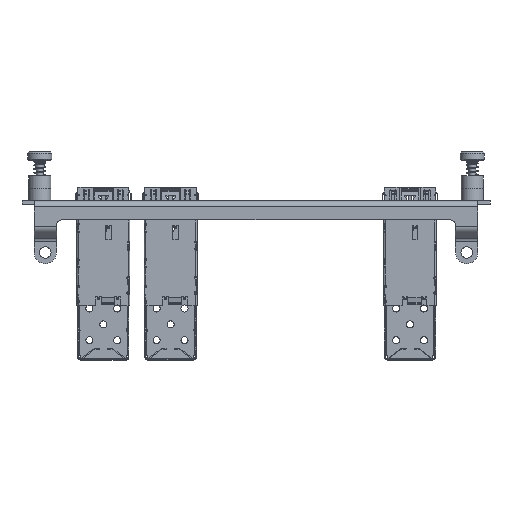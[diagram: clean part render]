
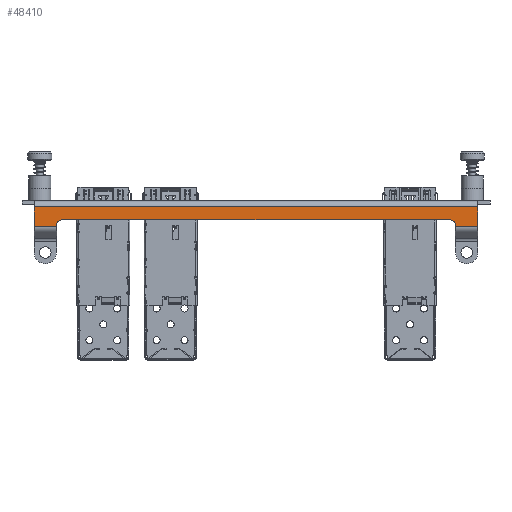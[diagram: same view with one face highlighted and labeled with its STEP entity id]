
A CAD part, front view. The second image highlights one B-rep face of the part: STEP entity #48410.
In plain terms, the highlighted planar face has unit normal (0, -1, 0) as drawn and (0, 0, 1) by its records, which use the part's own axes.
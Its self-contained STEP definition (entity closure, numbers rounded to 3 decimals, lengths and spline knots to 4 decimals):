
#4821=PLANE('',#50525);
#5986=FACE_OUTER_BOUND('',#7871,.T.);
#7871=EDGE_LOOP('',(#38432,#38433,#38434,#38435,#38436,#38437,#38438,#38439,
#38440,#38441));
#9796=LINE('',#66968,#15251);
#9800=LINE('',#66980,#15255);
#9818=LINE('',#67027,#15273);
#9860=LINE('',#67139,#15315);
#9888=LINE('',#67213,#15343);
#9937=LINE('',#67341,#15392);
#9938=LINE('',#67342,#15393);
#9939=LINE('',#67343,#15394);
#15251=VECTOR('',#54126,0.3937);
#15255=VECTOR('',#54138,0.3937);
#15273=VECTOR('',#54172,0.3937);
#15315=VECTOR('',#54252,0.3937);
#15343=VECTOR('',#54330,0.3937);
#15392=VECTOR('',#54477,0.3937);
#15393=VECTOR('',#54478,0.3937);
#15394=VECTOR('',#54479,0.3937);
#20704=CIRCLE('',#50418,0.06);
#20706=CIRCLE('',#50422,0.06);
#22592=VERTEX_POINT('',#66958);
#22593=VERTEX_POINT('',#66959);
#22596=VERTEX_POINT('',#66967);
#22598=VERTEX_POINT('',#66973);
#22600=VERTEX_POINT('',#66979);
#22620=VERTEX_POINT('',#67025);
#22621=VERTEX_POINT('',#67026);
#22671=VERTEX_POINT('',#67136);
#22672=VERTEX_POINT('',#67138);
#22693=VERTEX_POINT('',#67211);
#30045=EDGE_CURVE('',#22592,#22593,#20704,.T.);
#30049=EDGE_CURVE('',#22596,#22593,#9796,.T.);
#30052=EDGE_CURVE('',#22596,#22598,#20706,.T.);
#30055=EDGE_CURVE('',#22600,#22598,#9800,.T.);
#30077=EDGE_CURVE('',#22620,#22621,#9818,.T.);
#30134=EDGE_CURVE('',#22672,#22671,#9860,.T.);
#30173=EDGE_CURVE('',#22592,#22693,#9888,.T.);
#30236=EDGE_CURVE('',#22621,#22672,#9937,.T.);
#30237=EDGE_CURVE('',#22600,#22671,#9938,.T.);
#30238=EDGE_CURVE('',#22620,#22693,#9939,.T.);
#38432=ORIENTED_EDGE('',*,*,#30077,.T.);
#38433=ORIENTED_EDGE('',*,*,#30236,.T.);
#38434=ORIENTED_EDGE('',*,*,#30134,.T.);
#38435=ORIENTED_EDGE('',*,*,#30237,.F.);
#38436=ORIENTED_EDGE('',*,*,#30055,.T.);
#38437=ORIENTED_EDGE('',*,*,#30052,.F.);
#38438=ORIENTED_EDGE('',*,*,#30049,.T.);
#38439=ORIENTED_EDGE('',*,*,#30045,.F.);
#38440=ORIENTED_EDGE('',*,*,#30173,.T.);
#38441=ORIENTED_EDGE('',*,*,#30238,.F.);
#48410=ADVANCED_FACE('',(#5986),#4821,.T.);
#50418=AXIS2_PLACEMENT_3D('',#66960,#54118,#54119);
#50422=AXIS2_PLACEMENT_3D('',#66974,#54131,#54132);
#50525=AXIS2_PLACEMENT_3D('',#67340,#54475,#54476);
#54118=DIRECTION('center_axis',(0.,0.,
1.));
#54119=DIRECTION('ref_axis',(0.707,0.707,0.));
#54126=DIRECTION('',(1.,0.,0.));
#54131=DIRECTION('center_axis',(0.,0.,
1.));
#54132=DIRECTION('ref_axis',(-0.707,0.707,0.));
#54138=DIRECTION('',(0.,1.,0.));
#54172=DIRECTION('',(0.,1.,0.));
#54252=DIRECTION('',(0.,-1.,0.));
#54330=DIRECTION('',(0.,-1.,0.));
#54475=DIRECTION('center_axis',(0.,0.,
1.));
#54476=DIRECTION('ref_axis',(0.,-1.,0.));
#54477=DIRECTION('',(-1.,0.,0.));
#54478=DIRECTION('',(-1.,0.,0.));
#54479=DIRECTION('',(-1.,0.,0.));
#66958=CARTESIAN_POINT('',(2.225,-0.2371,0.4925));
#66959=CARTESIAN_POINT('',(2.165,-0.1771,0.4925));
#66960=CARTESIAN_POINT('Origin',(2.165,-0.2371,0.4925));
#66967=CARTESIAN_POINT('',(-2.165,-0.1771,0.4925));
#66968=CARTESIAN_POINT('',(-1.1125,-0.1771,0.4925));
#66973=CARTESIAN_POINT('',(-2.225,-0.2371,0.4925));
#66974=CARTESIAN_POINT('Origin',(-2.165,-0.2371,0.4925));
#66979=CARTESIAN_POINT('',(-2.225,-0.2468,0.4925));
#66980=CARTESIAN_POINT('',(-2.225,-0.3941,0.4925));
#67025=CARTESIAN_POINT('',(2.475,-0.2468,0.4925));
#67026=CARTESIAN_POINT('',(2.475,-0.0313,0.4925));
#67027=CARTESIAN_POINT('',(2.475,-0.3941,0.4925));
#67136=CARTESIAN_POINT('',(-2.475,-0.2468,0.4925));
#67138=CARTESIAN_POINT('',(-2.475,-0.0313,0.4925));
#67139=CARTESIAN_POINT('',(-2.475,-0.1506,0.4925));
#67211=CARTESIAN_POINT('',(2.225,-0.2468,0.4925));
#67213=CARTESIAN_POINT('',(2.225,-0.1506,0.4925));
#67340=CARTESIAN_POINT('Origin',(0.,-0.124,0.4925));
#67341=CARTESIAN_POINT('',(0.,-0.0313,0.4925));
#67342=CARTESIAN_POINT('',(1.305,-0.2468,0.4925));
#67343=CARTESIAN_POINT('',(1.305,-0.2468,0.4925));
